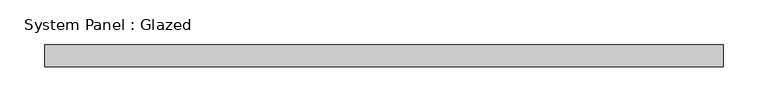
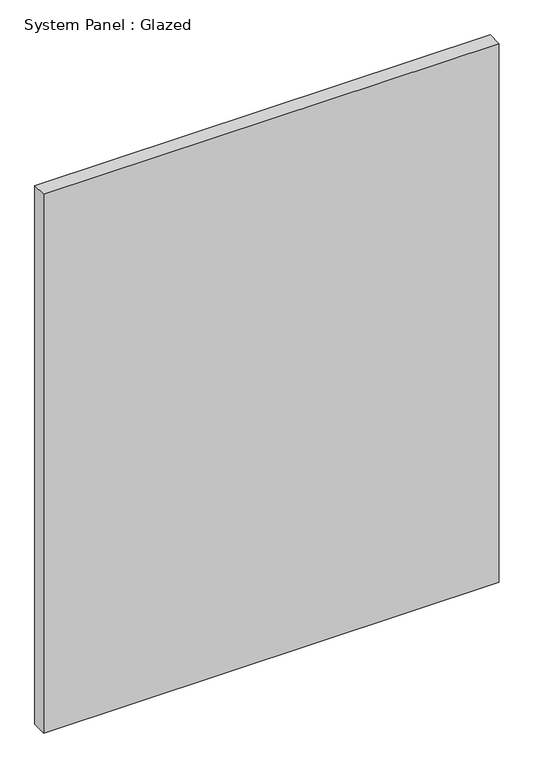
"""IFC4 building model written with IfcOpenShell, lengths in millimetres: plate geometry, System Panel : Glazed."""

from ifc_helpers import new_model, si_unit, origin, origin_with_axes, place, context, project, spatial, polyline, outline, extrude, source, transform, mapped, element, save


def system_panel_glazed_a4be1827(model_context):
    return source(origin(), model_context, "Body", "SweptSolid", [
        extrude(outline(polyline([(380.0892471, 24.5), (-380.0892471, 24.5), (-380.0892471, 49.5), (380.0892471, 49.5), (380.0892471, 24.5)])), origin_with_axes(), (0.0, 0.0, 1.0), 950.0),
    ])


if __name__ == "__main__":
    model = new_model("IFC4")
    model_context = context("Model", 3, world=origin())
    ifc_project = project(units=[si_unit("LENGTHUNIT", "METRE", prefix="MILLI")], contexts=[model_context])
    site = spatial("IfcSite", under=ifc_project)
    building = spatial("IfcBuilding", under=site)
    placement = place(None, origin())
    system_panel_glazed_shape = system_panel_glazed_a4be1827(model_context)
    element("IfcPlate", 1, ObjectType="System Panel : Glazed", at=placement, inside=building, context=model_context, shape_type="MappedRepresentation", body=[
        mapped(system_panel_glazed_shape, transform((0.0, 0.0, 0.0), x_axis=(1.0, 0.0, 0.0), y_axis=(0.0, 1.0, 0.0), z_axis=(0.0, 0.0, 1.0))),
    ])
    save(model, "model.ifc")
